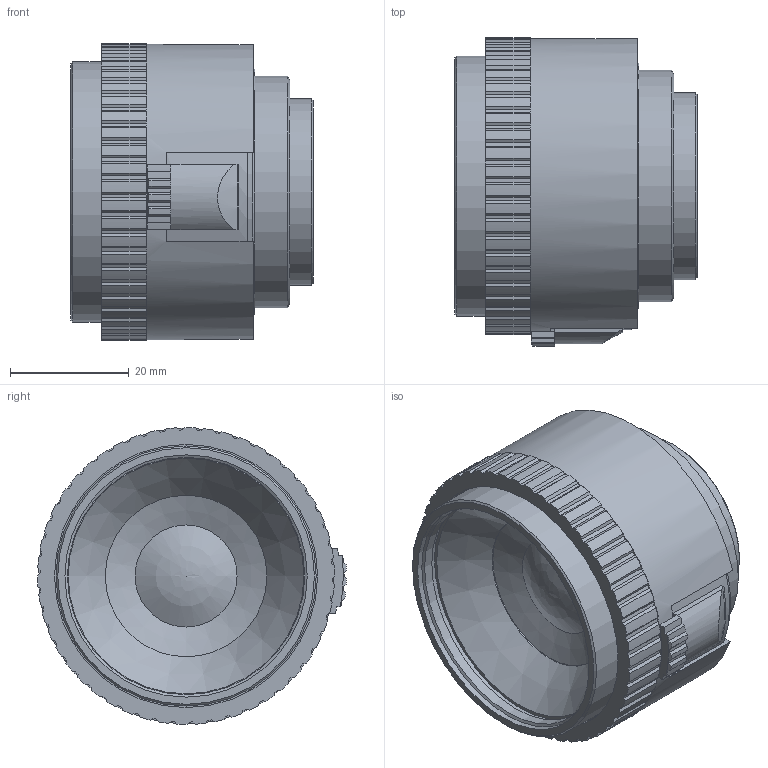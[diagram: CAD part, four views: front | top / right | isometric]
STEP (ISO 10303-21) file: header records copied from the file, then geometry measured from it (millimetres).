
FILE_DESCRIPTION(/* description */ (''),/* implementation_level */ '2;1');
FILE_NAME(/* name */ '',/* time_stamp */ '2014-08-12T09:55:28+02:00',/* author */ (''),/* organization */ (''),/* preprocessor_version */ 'ST-DEVELOPER v15',/* originating_system */ 'SIEMENS PLM Software NX 8.5',/* authorisation */ '');
FILE_SCHEMA (('AUTOMOTIVE_DESIGN { 1 0 10303 214 3 1 1 1 }'));
Length unit declared in the file: millimetre
Products named in the file (1): cord0D80185D6kmr
Bounding box: 40.78 x 52 x 50 mm (x, y, z)
Volume: 53675.9 mm3; surface area: 12139.1 mm2
Topology: 1 solids, 2 shells, 384 faces, 1023 edges, 649 vertices
Faces by surface type: plane 281, cylinder 82, cone 18, revolution 3
Full cylindrical faces by diameter (mm): 27.2 x1, 29.058 x1, 29.6 x1, 31.5 x1, 35.6 x1, 39 x1, 39.96 x1, 40.8 x2, 43.8 x1, 44.3 x1, 49.7 x1
Entity records: 11660 total; most frequent: CARTESIAN_POINT 2095, DIRECTION 2003, ORIENTED_EDGE 1964, EDGE_CURVE 982, LINE 682, VECTOR 682, AXIS2_PLACEMENT_3D 659, VERTEX_POINT 639
